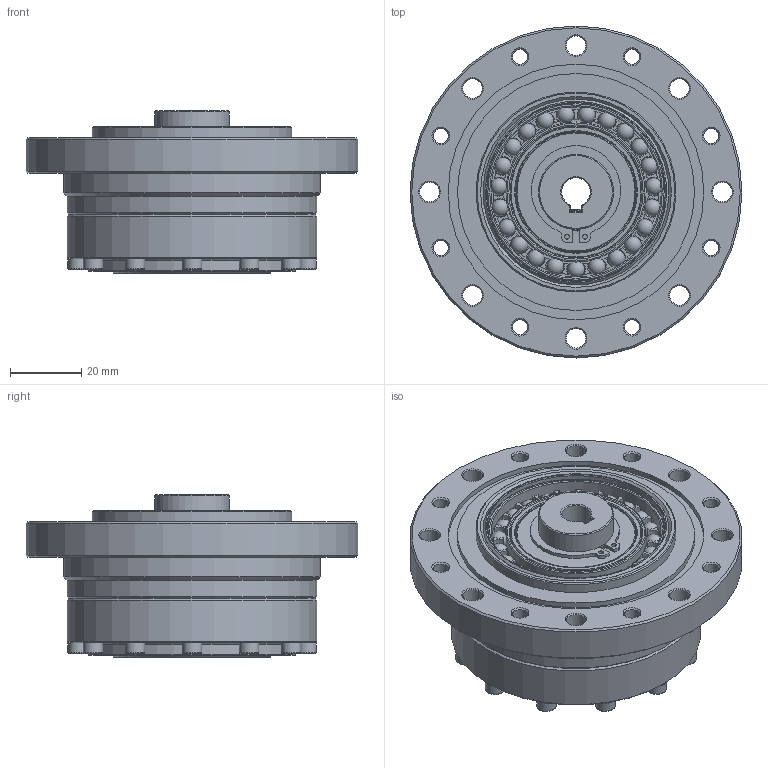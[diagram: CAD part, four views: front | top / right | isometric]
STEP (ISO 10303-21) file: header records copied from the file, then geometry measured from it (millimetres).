
FILE_DESCRIPTION(/* description */ (''),/* implementation_level */ '2;1');
FILE_NAME(/* name */ 'LSG-20-XX-U-II-φ8.stp',/* time_stamp */ '2023-06-29T10:00:30+08:00',/* author */ (''),/* organization */ (''),/* preprocessor_version */ 'ST-DEVELOPER v16.7',/* originating_system */ 'SIEMENS PLM Software NX 12.0',/* authorisation */ '');
FILE_SCHEMA (('AUTOMOTIVE_DESIGN { 1 0 10303 214 3 1 1 1 }'));
Length unit declared in the file: millimetre
Products named in the file (18): EB375007-20KC-46; EB375007-20KE-01; TC-45x55x4; O-54x1; GB-T70.1-2000,M3x16; GB-T70.1-2000,M5x16; 轴用弹性挡圈φ21; 销子3x10; CSG-20-00-01-K8; 铜垫圈21.5x33.5x1; CS-20-XX-03; CSG-20-00-02; 柔轮垫块LSS-20; 刚轮LSS-20; 柔轮LSS-20; EB375007-20KE; 交叉轴承LSS-20; LSG-20-XX-U-II-φ8
Assembly tree (38 placements, depth 3):
  LSG-20-XX-U-II-φ8
    交叉轴承LSS-20
      TC-45x55x4
    柔轮LSS-20
    刚轮LSS-20
    柔轮垫块LSS-20
    EB375007-20KE
      EB375007-20KE-01
      EB375007-20KC-46
    CSG-20-00-02
    CS-20-XX-03
    铜垫圈21.5x33.5x1
    CSG-20-00-01-K8
    销子3x10  x4
    轴用弹性挡圈φ21
    GB-T70.1-2000,M5x16  x8
    GB-T70.1-2000,M3x16  x12
    O-54x1
Bounding box: 93 x 93 x 45.5 mm (x, y, z)
Volume: 131709.3 mm3; surface area: 90796.3 mm2
Topology: 62 solids, 62 shells, 1298 faces, 2897 edges, 1723 vertices
Faces by surface type: plane 515, cone 377, cylinder 258, torus 124, sphere 23, revolution 1
Full cylindrical faces by diameter (mm): 1.4 x2, 2.5 x12, 2.874 x12, 3 x12, 3.5 x12, 4.2 x16, 4.826 x8, 5 x8, 5.5 x36, 8.5 x8, 10 x1, 14 x3, 20 x1, 21 x2, 21.5 x1, 22 x2, 31 x1, 33.5 x1, 34 x2, 35 x2, 37 x2, 39.25 x2, 40.2 x1, 40.64 x1, 43 x1, 44 x1, 44.5 x1, 45 x2, 45.4 x1, 46.36 x1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
Entity records: 22770 total; most frequent: CARTESIAN_POINT 5012, DIRECTION 3791, ORIENTED_EDGE 2804, AXIS2_PLACEMENT_3D 1700, EDGE_CURVE 1402, EDGE_LOOP 1358, VERTEX_POINT 1120, FACE_BOUND 1072
